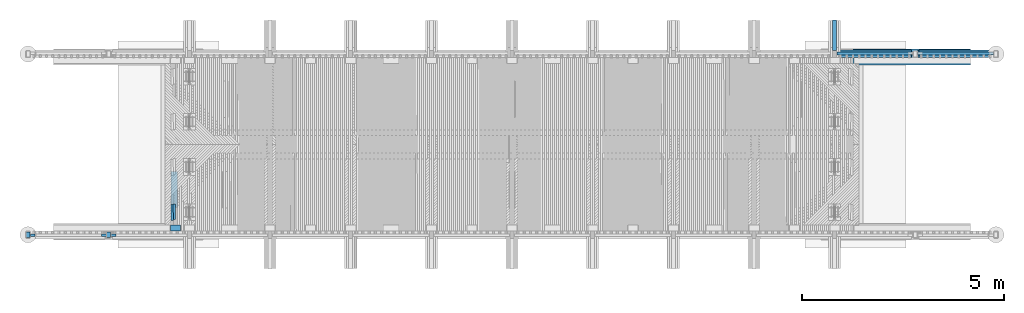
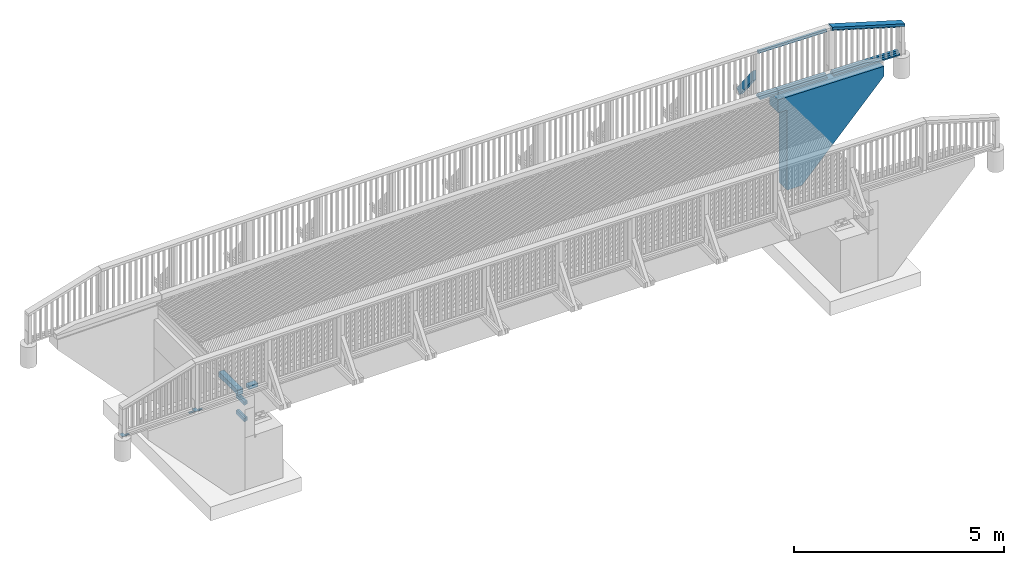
# One storey, part 48 of 53: 19 beams, 1 member.
"""IFC2X3 building model written with IfcOpenShell, lengths in millimetres."""

from ifc_helpers import new_model, si_unit, frame, origin_with_axes, place, context, subcontext, project, spatial, faceted_brep, material, type_object, element, save


model = new_model("IFC2X3")

# Units and contexts
model_context = context("Model", 3, precision=1e-05, world=origin_with_axes())
body_context = subcontext(model_context, "Body", "Model", "MODEL_VIEW")
ifc_project = project(units=[si_unit("LENGTHUNIT", "METRE", prefix="MILLI"), si_unit("AREAUNIT", "SQUARE_METRE"), si_unit("VOLUMEUNIT", "CUBIC_METRE"), si_unit("MASSUNIT", "GRAM", prefix="KILO"), si_unit("TIMEUNIT", "SECOND"), si_unit("PLANEANGLEUNIT", "RADIAN"), si_unit("SOLIDANGLEUNIT", "STERADIAN"), si_unit("THERMODYNAMICTEMPERATUREUNIT", "DEGREE_CELSIUS"), si_unit("LUMINOUSINTENSITYUNIT", "LUMEN")], contexts=[model_context])

# Site, building, storey
site_placement = place(None, origin_with_axes())
site = spatial("IfcSite", under=ifc_project, at=site_placement, Name="Undefined", CompositionType="ELEMENT")
building_placement = place(site_placement, origin_with_axes())
building = spatial("IfcBuilding", under=site, at=building_placement, Name="Undefined", CompositionType="ELEMENT")
storey_placement = place(building_placement, origin_with_axes())
storey = spatial("IfcBuildingStorey", under=building, at=storey_placement, Name="Undefined", CompositionType="ELEMENT", Elevation=0.0)

# Beams
ifc_material_1 = material(Name="STEEL/AISI316")
beam_type_1 = type_object("IfcBeamType", Name="PL60*10", PredefinedType="NOTDEFINED")
for number, where, z_axis, x_axis in (
    (1, (-3940.00349607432, 40109.9999997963, 3073.75999999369), (-0.000116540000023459, 0.999999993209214, 0.0), (0.999999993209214, 0.000116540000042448, 0.0)),
    (2, (-2059.99650392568, 40109.9999997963, 3101.8699999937), (0.000116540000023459, 0.999999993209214, 0.0), (-0.999999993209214, 0.000116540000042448, 0.0)),
    (3, (-1940.00349607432, 40109.9999997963, 3101.86999999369), (-0.000116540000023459, 0.999999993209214, 0.0), (0.999999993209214, 0.000116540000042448, 0.0)),
):
    element("IfcBeam", number, at=place(storey_placement, frame(where, z_axis=z_axis, x_axis=x_axis)), inside=storey, type_object=beam_type_1, material=ifc_material_1, Name="KAIDEPYLVÄS", ObjectType="PL60*10", context=body_context, shape_type="Brep", body=[
        faceted_brep([(0.0, 5.0, -29.9999999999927), (-3.63797880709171e-12, 5.0, 30.0), (115.000000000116, 5.0, 29.9999999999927), (115.00000000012, 5.0, -30.0), (-3.63797880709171e-12, -5.0, 30.0), (115.000000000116, -5.0, 29.9999999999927), (0.0, -5.0, -29.9999999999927), (115.00000000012, -5.0, -30.0)], [[[0, 1, 2, 3]], [[1, 4, 5, 2]], [[4, 6, 7, 5]], [[6, 0, 3, 7]], [[5, 7, 3, 2]], [[6, 4, 1, 0]]]),
    ])
beam_type_2 = type_object("IfcBeamType", Name="PL100*10", PredefinedType="NOTDEFINED")
for number, where, z_axis, x_axis in (
    (4, (-3999.99999987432, 40055.02, 3089.56000000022), (-1.0, 0.0, 0.0), (0.0, 1.0, 0.0)),
    (5, (-1999.99999987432, 40055.02, 3117.67000000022), (-1.0, 0.0, 0.0), (0.0, 1.0, 0.0)),
):
    element("IfcBeam", number, at=place(storey_placement, frame(where, z_axis=z_axis, x_axis=x_axis)), inside=storey, type_object=beam_type_2, material=ifc_material_1, Name="KAIDEPYLVÄS", ObjectType="PL100*10", context=body_context, shape_type="Brep", body=[
        faceted_brep([(0.0, 5.0, -50.0), (0.0, 5.0, 50.0), (140.0, 5.0, 50.0), (140.0, 5.0, -50.0), (0.0, -5.0, 50.0), (140.0, -5.0, 50.0), (0.0, -5.0, -50.0), (140.0, -5.0, -50.0)], [[[0, 1, 2, 3]], [[1, 4, 5, 2]], [[4, 6, 7, 5]], [[6, 0, 3, 7]], [[5, 7, 3, 2]], [[6, 4, 1, 0]]]),
    ])
ifc_material_2 = material(Name="TIMBER/Timber_Undefined")
beam_type_3 = type_object("IfcBeamType", Name="150*100", PredefinedType="NOTDEFINED")
beam_1_placement = place(storey_placement, frame((-469.724815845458, 40289.9999999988, 3158.3535078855), z_axis=(0.0, -1.0, 0.0), x_axis=(0.999891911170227, 0.0, 0.0147025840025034)))
element("IfcBeam", 6, at=beam_1_placement, inside=storey, type_object=beam_type_3, material=ifc_material_2, Name="TÖRMÄYSJOHDE", ObjectType="150*100", context=body_context, shape_type="Brep", body=[
    faceted_brep([(-3.63797880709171e-12, 50.0, -75.0), (-3.63797880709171e-12, 50.0, 75.0), (250.000589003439, 50.0000000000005, 75.0), (250.000589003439, 50.0000000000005, -75.0), (0.0, -49.9999999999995, 75.0), (250.000589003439, -50.0, 75.0), (0.0, -49.9999999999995, -75.0), (250.000589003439, -50.0, -75.0)], [[[0, 1, 2, 3]], [[1, 4, 5, 2]], [[4, 6, 7, 5]], [[6, 0, 3, 7]], [[5, 7, 3, 2]], [[6, 4, 1, 0]]]),
])
beam_type_4 = type_object("IfcBeamType", Name="150*150", PredefinedType="NOTDEFINED")
beam_2_placement = place(storey_placement, frame((-375.006122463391, 40795.0011300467, 2658.99214114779), z_axis=(4.45050000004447e-05, 0.0, 0.999999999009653), x_axis=(0.0, 1.0, 0.0)))
element("IfcBeam", 7, at=beam_2_placement, inside=storey, type_object=beam_type_4, material=ifc_material_2, Name="BEAM", ObjectType="150*150", context=body_context, shape_type="Brep", body=[
    faceted_brep([(3.63797880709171e-12, 75.0000000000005, -75.0), (3.63797880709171e-12, 75.0000000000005, 75.0), (900.0, 75.0, 75.0000000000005), (900.0, 74.9999999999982, -74.9999999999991), (0.0, -75.0000000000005, 75.0), (900.0, -75.0000000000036, 75.0000000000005), (0.0, -75.0000000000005, -75.0), (900.0, -75.0, -74.9999999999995)], [[[0, 1, 2, 3]], [[1, 4, 5, 2]], [[4, 6, 7, 5]], [[6, 0, 3, 7]], [[5, 7, 3, 2]], [[6, 4, 1, 0]]]),
])
ifc_material_3 = material(Name="CONCRETE/Concrete_Undefined")
beam_type_5 = type_object("IfcBeamType", Name="2800*400", PredefinedType="NOTDEFINED")
beam_3_placement = place(storey_placement, frame((16430.3400332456, 44530.0, 1712.66804762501), z_axis=(0.0140428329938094, 0.0, 0.999901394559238), x_axis=(0.999901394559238, 0.0, -0.0140428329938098)))
element("IfcBeam", 8, at=beam_3_placement, inside=storey, type_object=beam_type_5, material=ifc_material_3, Name="SIIPIMUURI", ObjectType="2800*400", context=body_context, shape_type="Brep", body=[
    faceted_brep([(0.280884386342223, 199.999999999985, 1380.0), (3.63797880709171e-12, -200.0, 1400.0), (2915.2874638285, -200.0, 1400.0), (2915.5683481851, 200.0, 1380.0), (270.457242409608, 199.999999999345, -54.8754727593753), (270.457242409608, -200.0, -54.8754727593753), (255.29098277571, -200.0, 1025.01803336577), (255.29098277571, 199.999999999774, 1025.01803336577), (288.066954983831, 200.0, -1308.75182153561), (288.066954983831, -200.0, -1308.75182153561), (697.173583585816, 200.0, -1303.00623892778), (697.173583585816, -200.0, -1303.00623892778), (2919.22031514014, 200.0, 1119.96651154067), (2919.22031514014, -200.0, 1119.96651154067), (5.31563413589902, -200.0, 1021.50732511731), (5.31563413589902, 199.999999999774, 1021.50732511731)], [[[0, 1, 2, 3]], [[4, 5, 6, 7]], [[8, 9, 5, 4]], [[10, 11, 9, 8]], [[12, 13, 11, 10]], [[13, 12, 3, 2]], [[6, 5, 9, 11, 13, 2, 1, 14]], [[7, 6, 14, 15]], [[12, 10, 8, 4, 7, 15, 0, 3]], [[15, 14, 1, 0]]]),
])

# Member
member_type = type_object("IfcMemberType", Name="180*100", PredefinedType="NOTDEFINED")
member_placement = place(storey_placement, frame((16000.0064146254, 45378.7683991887, 2900.91791762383), z_axis=(0.0, 0.783926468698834, 0.620853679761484), x_axis=(-4.01699999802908e-06, -0.620853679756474, 0.78392646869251)))
element("IfcMember", 9, at=member_placement, inside=storey, type_object=member_type, material=ifc_material_2, Name="KAIDEPYLVÄS", ObjectType="180*100", context=body_context, shape_type="Brep", body=[
    faceted_brep([(0.0, 50.0, -89.9999999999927), (0.0, 50.0, 90.0), (1214.99440716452, 50.0, 90.0000000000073), (987.715792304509, 50.0, -89.9999999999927), (0.0, -49.9999999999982, 90.0000000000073), (1214.99480886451, -50.0, 90.0000000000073), (-3.63797880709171e-12, -49.9999999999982, -90.0), (987.716194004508, -49.9999999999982, -89.9999999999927)], [[[0, 1, 2, 3]], [[1, 4, 5, 2]], [[4, 6, 7, 5]], [[6, 0, 3, 7]], [[5, 7, 3, 2]], [[6, 4, 1, 0]]]),
])

# Beams
beam_type_6 = type_object("IfcBeamType", Name="70*70", PredefinedType="NOTDEFINED")
beam_4_placement = place(storey_placement, frame((19930.4049244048, 44619.9900452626, 3879.53617466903), z_axis=(0.0, 1.0, 0.0), x_axis=(-0.958203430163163, 0.0, 0.286087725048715)))
element("IfcBeam", 10, at=beam_4_placement, inside=storey, type_object=beam_type_6, material=ifc_material_2, Name="BEAM", ObjectType="70*70", context=body_context, shape_type="Brep", body=[
    faceted_brep([(0.436228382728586, 35.0000000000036, -35.0), (0.436228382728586, 35.0000000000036, 35.0), (1962.44131083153, 35.0000000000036, 35.0), (1962.44131083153, 35.0000000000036, -35.0), (-20.4634471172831, -34.9999999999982, 35.0), (1941.54163533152, -34.9999999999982, 35.0), (-20.4634471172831, -34.9999999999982, -35.0), (1941.54163533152, -34.9999999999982, -35.0)], [[[0, 1, 2, 3]], [[1, 4, 5, 2]], [[4, 6, 7, 5]], [[6, 0, 3, 7]], [[5, 7, 3, 2]], [[6, 4, 1, 0]]]),
])
beam_5_placement = place(storey_placement, frame((19909.4703719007, 44619.9900299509, 3156.34116342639), z_axis=(0.0, 1.0, 0.0), x_axis=(-0.999883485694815, 0.0, 0.0152648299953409)))
element("IfcBeam", 11, at=beam_5_placement, inside=storey, type_object=beam_type_6, material=ifc_material_2, Name="BEAM", ObjectType="70*70", context=body_context, shape_type="Brep", body=[
    faceted_brep([(-3.63797880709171e-12, 35.0000000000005, -35.0), (-3.63797880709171e-12, 35.0000000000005, 35.0), (1820.22135781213, 35.0, 35.0), (1820.22135781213, 35.0, -35.0), (-3.63797880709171e-12, -34.9999999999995, 35.0), (1820.22135781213, -34.9999999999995, 35.0), (-3.63797880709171e-12, -34.9999999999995, -35.0), (1820.22135781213, -34.9999999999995, -35.0)], [[[0, 1, 2, 3]], [[1, 4, 5, 2]], [[4, 6, 7, 5]], [[6, 0, 3, 7]], [[5, 7, 3, 2]], [[6, 4, 1, 0]]]),
])
beam_6_placement = place(storey_placement, frame((17909.4703719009, 44619.9900299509, 3186.87116342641), z_axis=(0.0, 1.0, 0.0), x_axis=(-0.999883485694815, 0.0, 0.0152648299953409)))
element("IfcBeam", 12, at=beam_6_placement, inside=storey, type_object=beam_type_6, material=ifc_material_2, Name="BEAM", ObjectType="70*70", context=body_context, shape_type="Brep", body=[
    faceted_brep([(-3.63797880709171e-12, 35.0000000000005, -35.0), (-3.63797880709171e-12, 35.0000000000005, 35.0), (1850.22135781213, 34.9999999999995, 35.0), (1850.22135781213, 34.9999999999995, -35.0), (-3.63797880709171e-12, -34.9999999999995, 35.0), (1850.22135781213, -35.0, 35.0), (-3.63797880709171e-12, -34.9999999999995, -35.0), (1850.22135781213, -35.0, -35.0)], [[[0, 1, 2, 3]], [[1, 4, 5, 2]], [[4, 6, 7, 5]], [[6, 0, 3, 7]], [[5, 7, 3, 2]], [[6, 4, 1, 0]]]),
])
beam_7_placement = place(storey_placement, frame((17939.4668764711, 44619.9900299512, 4446.41321852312), z_axis=(0.0, 1.0, 0.0), x_axis=(-0.999883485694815, 0.0, 0.0152648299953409)))
element("IfcBeam", 13, at=beam_7_placement, inside=storey, type_object=beam_type_6, material=ifc_material_2, Name="BEAM", ObjectType="70*70", context=body_context, shape_type="Brep", body=[
    faceted_brep([(-3.63797880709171e-12, 35.0000000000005, -35.0), (-3.63797880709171e-12, 35.0000000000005, 35.0), (1880.22135781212, 35.0000000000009, 35.0), (1880.22135781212, 35.0000000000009, -35.0), (-3.63797880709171e-12, -34.9999999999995, 35.0), (1880.22135781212, -35.0, 35.0), (-3.63797880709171e-12, -34.9999999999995, -35.0), (1880.22135781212, -35.0, -35.0)], [[[0, 1, 2, 3]], [[1, 4, 5, 2]], [[4, 6, 7, 5]], [[6, 0, 3, 7]], [[5, 7, 3, 2]], [[6, 4, 1, 0]]]),
])
beam_type_7 = type_object("IfcBeamType", Name="195*40", PredefinedType="NOTDEFINED")
beam_8_placement = place(storey_placement, frame((19909.6993443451, 44612.4900299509, 3101.33941571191), z_axis=(0.0, 1.0, 0.0), x_axis=(-0.999883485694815, 0.0, 0.0152648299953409)))
element("IfcBeam", 14, at=beam_8_placement, inside=storey, type_object=beam_type_7, material=ifc_material_2, Name="BEAM", ObjectType="195*40", context=body_context, shape_type="Brep", body=[
    faceted_brep([(0.0, 20.0, -97.5), (0.0, 20.0, 97.5), (1820.22135781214, 20.0, 97.5), (1820.22135781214, 20.0, -97.5), (3.63797880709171e-12, -20.0, 97.5), (1820.22135781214, -20.0, 97.5), (3.63797880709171e-12, -20.0, -97.5), (1820.22135781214, -20.0, -97.5)], [[[0, 1, 2, 3]], [[1, 4, 5, 2]], [[4, 6, 7, 5]], [[6, 0, 3, 7]], [[5, 7, 3, 2]], [[6, 4, 1, 0]]]),
])
beam_type_8 = type_object("IfcBeamType", Name="180*70", PredefinedType="NOTDEFINED")
beam_9_placement = place(storey_placement, frame((18039.9342024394, 44605.0099640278, 4517.05500293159), z_axis=(0.0, -1.0, 0.0), x_axis=(0.958243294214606, 0.0, -0.285954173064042)))
element("IfcBeam", 15, at=beam_9_placement, inside=storey, type_object=beam_type_8, material=ifc_material_2, Name="YLÄJOHDE", ObjectType="180*70", context=body_context, shape_type="Brep", body=[
    faceted_brep([(41.6879268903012, -35.0699417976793, -90.0), (41.6879268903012, -35.0699417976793, 90.0), (20.9594530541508, -35.0351891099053, 90.0), (20.9594530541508, -35.0351891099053, -90.0), (41.8028913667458, 34.9299637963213, 90.0), (0.0598773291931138, 34.9999487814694, 90.0), (41.8028913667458, 34.9299637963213, -90.0), (0.0598773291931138, 34.9999487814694, -90.0), (83.5459100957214, 34.8628353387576, -90.0), (83.4357358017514, -35.1370779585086, -90.0), (83.4357358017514, -35.1370779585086, 90.0), (83.5459100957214, 34.8628353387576, 90.0), (125.288933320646, 34.7985634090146, 90.0), (125.288933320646, 34.7985634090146, -90.0), (125.183549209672, -35.2013572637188, -90.0), (125.183549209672, -35.2013572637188, 90.0), (166.931366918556, -35.2627797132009, 90.0), (167.031960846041, 34.7371480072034, 90.0), (167.031960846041, 34.7371480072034, -90.0), (166.931366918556, -35.2627797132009, -90.0), (208.679188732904, -35.3213453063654, -90.0), (208.679188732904, -35.3213453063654, 90.0), (208.774992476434, 34.6785891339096, 90.0), (208.774992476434, 34.6785891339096, -90.0), (250.518028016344, 34.6228867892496, -90.0), (250.42701445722, -35.3770540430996, -90.0), (250.42701445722, -35.3770540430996, 90.0), (250.518028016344, 34.6228867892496, 90.0), (292.261067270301, 34.5700409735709, 90.0), (292.261067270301, 34.5700409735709, -90.0), (292.174843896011, -35.4299059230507, -90.0), (292.174843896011, -35.4299059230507, 90.0), (333.922676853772, -35.4799009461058, 90.0), (334.004110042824, 34.52005168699, 90.0), (334.004110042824, 34.52005168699, -90.0), (333.922676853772, -35.4799009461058, -90.0), (375.670513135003, -35.5270391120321, -90.0), (375.670513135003, -35.5270391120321, 90.0), (375.747156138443, 34.4729189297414, 90.0), (375.747156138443, 34.4729189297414, -90.0), (417.490205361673, 34.4286427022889, -90.0), (417.418352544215, -35.5713204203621, -90.0), (417.418352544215, -35.5713204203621, 90.0), (417.490205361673, 34.4286427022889, 90.0), (459.233257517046, 34.3872230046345, 90.0), (459.233257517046, 34.3872230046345, -90.0), (459.166194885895, -35.6127448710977, -90.0), (459.166194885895, -35.6127448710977, 90.0), (500.914039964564, -35.6513124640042, 90.0), (500.97631240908, 34.3486598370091, 90.0), (500.97631240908, 34.3486598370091, -90.0), (500.914039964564, -35.6513124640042, -90.0), (542.661887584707, -35.6870231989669, -90.0), (542.661887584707, -35.6870231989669, 90.0), (542.719369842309, 34.3129531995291, 90.0), (542.719369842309, 34.3129531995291, -90.0), (584.462429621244, 34.2801030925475, -90.0), (584.40973755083, -35.7198770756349, -90.0), (584.40973755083, -35.7198770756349, 90.0), (584.462429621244, 34.2801030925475, 90.0), (626.205491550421, 34.2501095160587, 90.0), (626.205491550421, 34.2501095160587, -90.0), (626.157589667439, -35.7498740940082, -90.0), (626.157589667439, -35.7498740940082, 90.0), (667.905443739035, -35.7770142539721, 90.0), (667.948555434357, 34.2229724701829, 90.0), (667.948555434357, 34.2229724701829, -90.0), (667.905443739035, -35.7770142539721, -90.0), (709.653299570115, -35.801297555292, -90.0), (709.653299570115, -35.801297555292, 90.0), (709.691621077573, 34.1986919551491, 90.0), (709.691621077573, 34.1986919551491, -90.0), (751.434688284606, 34.1772679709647, -90.0), (751.401156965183, -35.8227239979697, -90.0), (751.401156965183, -35.8227239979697, 90.0), (751.434688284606, 34.1772679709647, 90.0), (793.177756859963, 34.1587005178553, 90.0), (793.177756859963, 34.1587005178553, -90.0), (793.149015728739, -35.8412935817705, -90.0), (793.149015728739, -35.8412935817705, 90.0), (834.896875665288, -35.8570063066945, 90.0), (834.920826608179, 34.1429895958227, 90.0), (834.920826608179, 34.1429895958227, -90.0), (834.896875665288, -35.8570063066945, -90.0), (876.644736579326, -35.8698621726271, -90.0), (876.644736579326, -35.8698621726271, 90.0), (876.663897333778, 34.1301352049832, 90.0), (876.663897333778, 34.1301352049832, -90.0), (918.406968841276, 34.1201373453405, -90.0), (918.392598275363, -35.8798611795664, -90.0), (918.392598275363, -35.8798611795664, 90.0), (918.406968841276, 34.1201373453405, 90.0), (960.150040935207, 34.112996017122, 90.0), (960.150040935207, 34.112996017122, -90.0), (960.140460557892, -35.8870033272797, -90.0), (960.140460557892, -35.8870033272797, 90.0), (1001.88832323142, -35.8912886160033, 90.0), (1001.89311342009, 34.1087112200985, 90.0), (1001.89311342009, 34.1087112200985, -90.0), (1001.88832323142, -35.8912886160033, -90.0), (1043.63618610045, -35.8927170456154, -90.0), (1043.63618610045, -35.8927170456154, 90.0), (1043.63618610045, 34.1072829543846, 90.0), (1043.63618610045, 34.1072829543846, -90.0), (1085.3792587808, 34.1087112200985, -90.0), (1085.38404896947, -35.8912886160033, -90.0), (1085.38404896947, -35.8912886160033, 90.0), (1085.3792587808, 34.1087112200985, 90.0), (1127.12233126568, 34.112996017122, 90.0), (1127.12233126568, 34.112996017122, -90.0), (1127.131911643, -35.8870033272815, -90.0), (1127.131911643, -35.8870033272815, 90.0), (1168.87977392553, -35.8798611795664, 90.0), (1168.86540335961, 34.1201373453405, 90.0), (1168.86540335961, 34.1201373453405, -90.0), (1168.87977392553, -35.8798611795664, -90.0), (1210.62763562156, -35.8698621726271, -90.0), (1210.62763562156, -35.8698621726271, 90.0), (1210.60847486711, 34.130135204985, 90.0), (1210.60847486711, 34.130135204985, -90.0), (1252.35154559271, 34.1429895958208, -90.0), (1252.3754965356, -35.8570063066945, -90.0), (1252.3754965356, -35.8570063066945, 90.0), (1252.35154559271, 34.1429895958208, 90.0), (1294.09461534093, 34.1587005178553, 90.0), (1294.09461534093, 34.1587005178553, -90.0), (1294.12335647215, -35.8412935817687, -90.0), (1294.12335647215, -35.8412935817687, 90.0), (1335.87121523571, -35.8227239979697, 90.0), (1335.83768391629, 34.1772679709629, 90.0), (1335.83768391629, 34.1772679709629, -90.0), (1335.87121523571, -35.8227239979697, -90.0), (1377.61907263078, -35.801297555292, -90.0), (1377.61907263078, -35.801297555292, 90.0), (1377.58075112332, 34.1986919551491, 90.0), (1377.58075112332, 34.1986919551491, -90.0), (1419.32381676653, 34.222972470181, -90.0), (1419.36692846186, -35.7770142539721, -90.0), (1419.36692846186, -35.7770142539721, 90.0), (1419.32381676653, 34.222972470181, 90.0), (1461.06688065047, 34.2501095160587, 90.0), (1461.06688065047, 34.2501095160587, -90.0), (1461.11478253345, -35.74987409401, -90.0), (1461.11478253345, -35.74987409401, 90.0), (1502.86263465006, -35.7198770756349, 90.0), (1502.80994257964, 34.2801030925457, 90.0), (1502.80994257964, 34.2801030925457, -90.0), (1502.86263465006, -35.7198770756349, -90.0), (1544.61048461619, -35.6870231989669, -90.0), (1544.61048461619, -35.6870231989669, 90.0), (1544.55300235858, 34.3129531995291, 90.0), (1544.55300235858, 34.3129531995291, -90.0), (1586.29605979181, 34.3486598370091, -90.0), (1586.35833223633, -35.6513124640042, -90.0), (1586.35833223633, -35.6513124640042, 90.0), (1586.29605979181, 34.3486598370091, 90.0), (1628.03911468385, 34.3872230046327, 90.0), (1628.03911468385, 34.3872230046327, -90.0), (1628.10617731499, -35.6127448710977, -90.0), (1628.10617731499, -35.6127448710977, 90.0), (1669.85401965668, -35.5713204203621, 90.0), (1669.78216683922, 34.4286427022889, 90.0), (1669.78216683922, 34.4286427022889, -90.0), (1669.85401965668, -35.5713204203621, -90.0), (1711.60185906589, -35.5270391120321, -90.0), (1711.60185906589, -35.5270391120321, 90.0), (1711.52521606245, 34.4729189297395, 90.0), (1711.52521606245, 34.4729189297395, -90.0), (1753.26826215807, 34.52005168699, -90.0), (1753.34969534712, -35.4799009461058, -90.0), (1753.34969534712, -35.4799009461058, 90.0), (1753.26826215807, 34.52005168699, 90.0), (1795.01130493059, 34.5700409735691, 90.0), (1795.01130493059, 34.5700409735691, -90.0), (1795.09752830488, -35.4299059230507, -90.0), (1795.09752830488, -35.4299059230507, 90.0), (1836.84535774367, -35.3770540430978, 90.0), (1836.75434418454, 34.6228867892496, 90.0), (1836.75434418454, 34.6228867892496, -90.0), (1836.84535774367, -35.3770540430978, -90.0), (1878.59318346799, -35.3213453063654, -90.0), (1878.59318346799, -35.3213453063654, 90.0), (1878.49737972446, 34.6785891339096, 90.0), (1878.49737972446, 34.6785891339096, -90.0), (1920.24041135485, 34.7371480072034, -90.0), (1920.34100528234, -35.2627797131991, -90.0), (1920.34100528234, -35.2627797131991, 90.0), (1920.24041135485, 34.7371480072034, 90.0), (1961.98343888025, 34.7985634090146, 90.0), (1961.98343888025, 34.7985634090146, -90.0), (1962.08882299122, -35.2013572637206, -90.0), (1962.08882299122, -35.2013572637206, 90.0), (2003.83663639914, -35.1370779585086, 90.0), (2003.72646210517, 34.8628353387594, 90.0), (2003.72646210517, 34.8628353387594, -90.0), (2003.83663639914, -35.1370779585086, -90.0), (2045.58444531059, -35.0699417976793, 90.0), (2045.58444531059, -35.0699417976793, -90.0), (2087.33224953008, -34.9999487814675, -90.0), (2087.33224953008, -34.9999487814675, 90.0), (2045.46948083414, 34.9299637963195, 90.0), (2045.46948083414, 34.9299637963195, -90.0), (2087.2124948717, 34.9999487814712, -90.0), (2108.09074495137, -34.9637252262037, -90.0), (2108.09074495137, -34.9637252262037, 90.0), (2087.2124948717, 34.9999487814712, 90.0)], [[[0, 1, 2, 3]], [[1, 4, 5, 2]], [[4, 6, 7, 5]], [[2, 5, 7, 3]], [[6, 0, 3, 7]], [[0, 6, 8, 9]], [[1, 0, 9, 10]], [[4, 1, 10, 11]], [[6, 4, 11, 8]], [[8, 11, 12, 13]], [[9, 8, 13, 14]], [[10, 9, 14, 15]], [[11, 10, 15, 12]], [[12, 15, 16, 17]], [[13, 12, 17, 18]], [[14, 13, 18, 19]], [[15, 14, 19, 16]], [[16, 19, 20, 21]], [[17, 16, 21, 22]], [[18, 17, 22, 23]], [[19, 18, 23, 20]], [[20, 23, 24, 25]], [[21, 20, 25, 26]], [[22, 21, 26, 27]], [[23, 22, 27, 24]], [[24, 27, 28, 29]], [[25, 24, 29, 30]], [[26, 25, 30, 31]], [[27, 26, 31, 28]], [[28, 31, 32, 33]], [[29, 28, 33, 34]], [[30, 29, 34, 35]], [[31, 30, 35, 32]], [[32, 35, 36, 37]], [[33, 32, 37, 38]], [[34, 33, 38, 39]], [[35, 34, 39, 36]], [[36, 39, 40, 41]], [[37, 36, 41, 42]], [[38, 37, 42, 43]], [[39, 38, 43, 40]], [[40, 43, 44, 45]], [[41, 40, 45, 46]], [[42, 41, 46, 47]], [[43, 42, 47, 44]], [[44, 47, 48, 49]], [[45, 44, 49, 50]], [[46, 45, 50, 51]], [[47, 46, 51, 48]], [[48, 51, 52, 53]], [[49, 48, 53, 54]], [[50, 49, 54, 55]], [[51, 50, 55, 52]], [[52, 55, 56, 57]], [[53, 52, 57, 58]], [[54, 53, 58, 59]], [[55, 54, 59, 56]], [[56, 59, 60, 61]], [[57, 56, 61, 62]], [[58, 57, 62, 63]], [[59, 58, 63, 60]], [[60, 63, 64, 65]], [[61, 60, 65, 66]], [[62, 61, 66, 67]], [[63, 62, 67, 64]], [[64, 67, 68, 69]], [[65, 64, 69, 70]], [[66, 65, 70, 71]], [[67, 66, 71, 68]], [[68, 71, 72, 73]], [[69, 68, 73, 74]], [[70, 69, 74, 75]], [[71, 70, 75, 72]], [[72, 75, 76, 77]], [[73, 72, 77, 78]], [[74, 73, 78, 79]], [[75, 74, 79, 76]], [[76, 79, 80, 81]], [[77, 76, 81, 82]], [[78, 77, 82, 83]], [[79, 78, 83, 80]], [[80, 83, 84, 85]], [[81, 80, 85, 86]], [[82, 81, 86, 87]], [[83, 82, 87, 84]], [[84, 87, 88, 89]], [[85, 84, 89, 90]], [[86, 85, 90, 91]], [[87, 86, 91, 88]], [[88, 91, 92, 93]], [[89, 88, 93, 94]], [[90, 89, 94, 95]], [[91, 90, 95, 92]], [[92, 95, 96, 97]], [[93, 92, 97, 98]], [[94, 93, 98, 99]], [[95, 94, 99, 96]], [[96, 99, 100, 101]], [[97, 96, 101, 102]], [[98, 97, 102, 103]], [[99, 98, 103, 100]], [[100, 103, 104, 105]], [[101, 100, 105, 106]], [[102, 101, 106, 107]], [[103, 102, 107, 104]], [[104, 107, 108, 109]], [[105, 104, 109, 110]], [[106, 105, 110, 111]], [[107, 106, 111, 108]], [[108, 111, 112, 113]], [[109, 108, 113, 114]], [[110, 109, 114, 115]], [[111, 110, 115, 112]], [[112, 115, 116, 117]], [[113, 112, 117, 118]], [[114, 113, 118, 119]], [[115, 114, 119, 116]], [[116, 119, 120, 121]], [[117, 116, 121, 122]], [[118, 117, 122, 123]], [[119, 118, 123, 120]], [[120, 123, 124, 125]], [[121, 120, 125, 126]], [[122, 121, 126, 127]], [[123, 122, 127, 124]], [[124, 127, 128, 129]], [[125, 124, 129, 130]], [[126, 125, 130, 131]], [[127, 126, 131, 128]], [[128, 131, 132, 133]], [[129, 128, 133, 134]], [[130, 129, 134, 135]], [[131, 130, 135, 132]], [[132, 135, 136, 137]], [[133, 132, 137, 138]], [[134, 133, 138, 139]], [[135, 134, 139, 136]], [[136, 139, 140, 141]], [[137, 136, 141, 142]], [[138, 137, 142, 143]], [[139, 138, 143, 140]], [[140, 143, 144, 145]], [[141, 140, 145, 146]], [[142, 141, 146, 147]], [[143, 142, 147, 144]], [[144, 147, 148, 149]], [[145, 144, 149, 150]], [[146, 145, 150, 151]], [[147, 146, 151, 148]], [[148, 151, 152, 153]], [[149, 148, 153, 154]], [[150, 149, 154, 155]], [[151, 150, 155, 152]], [[152, 155, 156, 157]], [[153, 152, 157, 158]], [[154, 153, 158, 159]], [[155, 154, 159, 156]], [[156, 159, 160, 161]], [[157, 156, 161, 162]], [[158, 157, 162, 163]], [[159, 158, 163, 160]], [[160, 163, 164, 165]], [[161, 160, 165, 166]], [[162, 161, 166, 167]], [[163, 162, 167, 164]], [[164, 167, 168, 169]], [[165, 164, 169, 170]], [[166, 165, 170, 171]], [[167, 166, 171, 168]], [[168, 171, 172, 173]], [[169, 168, 173, 174]], [[170, 169, 174, 175]], [[171, 170, 175, 172]], [[172, 175, 176, 177]], [[173, 172, 177, 178]], [[174, 173, 178, 179]], [[175, 174, 179, 176]], [[176, 179, 180, 181]], [[177, 176, 181, 182]], [[178, 177, 182, 183]], [[179, 178, 183, 180]], [[180, 183, 184, 185]], [[181, 180, 185, 186]], [[182, 181, 186, 187]], [[183, 182, 187, 184]], [[184, 187, 188, 189]], [[185, 184, 189, 190]], [[186, 185, 190, 191]], [[187, 186, 191, 188]], [[188, 191, 192, 193]], [[189, 188, 193, 194]], [[190, 189, 194, 195]], [[191, 190, 195, 192]], [[196, 197, 198, 199]], [[192, 195, 197, 196]], [[193, 192, 196, 200]], [[194, 193, 200, 201]], [[195, 194, 201, 197]], [[197, 201, 202, 198]], [[198, 202, 203]], [[199, 198, 203, 204]], [[199, 204, 205]], [[200, 196, 199, 205]], [[201, 200, 205, 202]], [[204, 203, 202, 205]]]),
])
beam_type_9 = type_object("IfcBeamType", Name="195*45", PredefinedType="NOTDEFINED")
beam_10_placement = place(storey_placement, frame((17909.6611822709, 44612.4900299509, 3129.36970699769), z_axis=(0.0, 1.0, 0.0), x_axis=(-0.999883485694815, 0.0, 0.0152648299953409)))
element("IfcBeam", 16, at=beam_10_placement, inside=storey, type_object=beam_type_9, material=ifc_material_2, Name="BEAM", ObjectType="195*45", context=body_context, shape_type="Brep", body=[
    faceted_brep([(0.0, 22.5, -97.5), (0.0, 22.5, 97.5), (1850.22135781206, 22.5, 97.5), (1850.22135781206, 22.5, -97.5), (0.0, -22.5, 97.5), (1850.22135781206, -22.5, 97.5), (0.0, -22.5, -97.5), (1850.22135781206, -22.5, -97.5)], [[[0, 1, 2, 3]], [[1, 4, 5, 2]], [[4, 6, 7, 5]], [[6, 0, 3, 7]], [[5, 7, 3, 2]], [[6, 4, 1, 0]]]),
])
beam_type_10 = type_object("IfcBeamType", Name="100*60", PredefinedType="NOTDEFINED")
beam_11_placement = place(storey_placement, frame((-380.01, 40497.5, 2533.62000000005), z_axis=(0.0, 0.0, 1.0), x_axis=(0.0, 1.0, 0.0)))
element("IfcBeam", 17, at=beam_11_placement, inside=storey, type_object=beam_type_10, material=ifc_material_2, Name="BEAM", ObjectType="100*60", context=body_context, shape_type="Brep", body=[
    faceted_brep([(0.0, -30.0, 50.0), (0.0, -30.0, -50.0), (395.0, -30.0, -50.0), (395.0, -30.0, 50.0), (0.0, 15.2499998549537, 50.0), (0.0, 15.2499998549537, -50.0), (395.0, 25.2500000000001, -50.0), (395.0, 25.2500000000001, 50.0)], [[[0, 1, 2, 3]], [[1, 0, 4, 5]], [[2, 1, 5, 6]], [[3, 2, 6, 7]], [[0, 3, 7, 4]], [[6, 5, 4, 7]]]),
])
beam_12_placement = place(storey_placement, frame((-420.01, 40477.5, 2533.62000000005), z_axis=(0.0, 0.0, 1.0), x_axis=(0.0, 1.0, 0.0)))
element("IfcBeam", 18, at=beam_12_placement, inside=storey, type_object=beam_type_10, material=ifc_material_2, Name="BEAM", ObjectType="100*60", context=body_context, shape_type="Brep", body=[
    faceted_brep([(0.0, 30.0, -50.0), (0.0, 30.0, 50.0), (395.0, 30.0, 50.0), (395.0, 30.0, -50.0), (0.0, -25.2563292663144, 50.0), (395.0, -15.2563291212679, 50.0), (395.0, -15.2563291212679, -50.0), (0.0, -25.2563292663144, -50.0)], [[[0, 1, 2, 3]], [[2, 1, 4, 5]], [[3, 2, 5, 6]], [[0, 3, 6, 7]], [[1, 0, 7, 4]], [[6, 5, 4, 7]]]),
])
beam_13_placement = place(storey_placement, frame((-380.0, 40497.5, 2055.33), z_axis=(0.0, 0.0, 1.0), x_axis=(0.0, 1.0, 0.0)))
element("IfcBeam", 19, at=beam_13_placement, inside=storey, type_object=beam_type_10, material=ifc_material_2, Name="BEAM", ObjectType="100*60", context=body_context, shape_type="Brep", body=[
    faceted_brep([(0.0, -30.0, 50.0), (0.0, -30.0, -50.0), (395.0, -30.0, -50.0), (395.0, -30.0, 50.0), (0.0, 15.2499998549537, 50.0), (0.0, 15.2499998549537, -50.0), (395.0, 25.2500000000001, -50.0), (395.0, 25.2500000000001, 50.0)], [[[0, 1, 2, 3]], [[1, 0, 4, 5]], [[2, 1, 5, 6]], [[3, 2, 6, 7]], [[0, 3, 7, 4]], [[6, 5, 4, 7]]]),
])
beam_14_placement = place(storey_placement, frame((-420.0, 40477.5, 2055.33), z_axis=(0.0, 0.0, 1.0), x_axis=(0.0, 1.0, 0.0)))
element("IfcBeam", 20, at=beam_14_placement, inside=storey, type_object=beam_type_10, material=ifc_material_2, Name="BEAM", ObjectType="100*60", context=body_context, shape_type="Brep", body=[
    faceted_brep([(0.0, 30.0, -50.0), (0.0, 30.0, 50.0), (395.0, 30.0, 50.0), (395.0, 30.0, -50.0), (0.0, -25.2563292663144, 50.0), (395.0, -15.2563291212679, 50.0), (395.0, -15.2563291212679, -50.0), (0.0, -25.2563292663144, -50.0)], [[[0, 1, 2, 3]], [[2, 1, 4, 5]], [[3, 2, 5, 6]], [[0, 3, 6, 7]], [[1, 0, 7, 4]], [[6, 5, 4, 7]]]),
])

save(model, "model.ifc")
